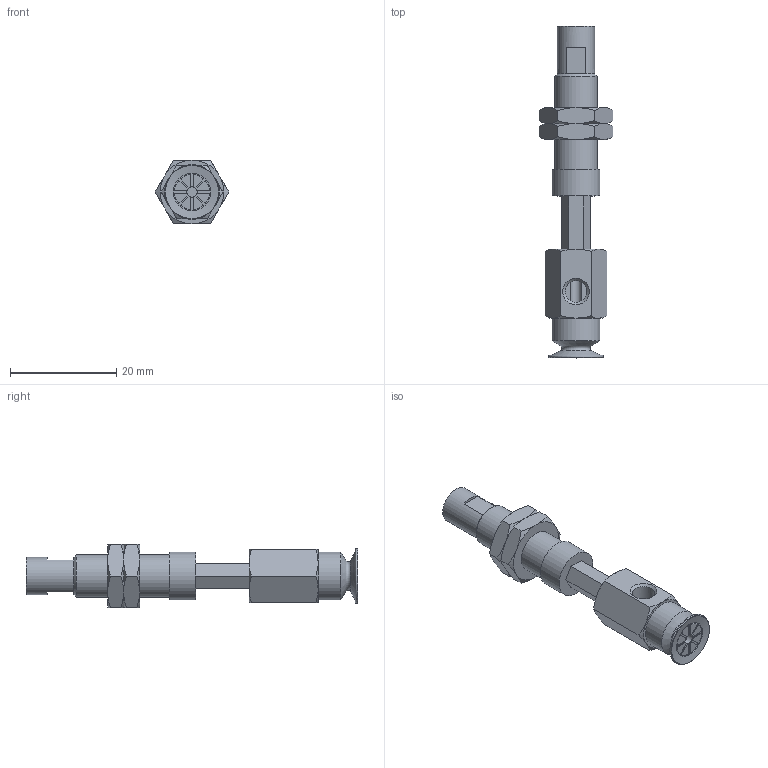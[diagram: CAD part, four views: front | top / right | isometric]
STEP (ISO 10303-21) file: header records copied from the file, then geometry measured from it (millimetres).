
FILE_DESCRIPTION(('STEP AP203'),'1');
FILE_NAME('.stp','2025-03-13T02:56:44',(' '),(' '),'Spatial InterOp 3D',' ',' ');
FILE_SCHEMA(('CONFIG_CONTROL_DESIGN'));
Length unit declared in the file: millimetre
Products named in the file (6): BNABPAYH-10B-10-※; NAPATH-10A-10--M; NAPATH-10A-10--F; Nut-10A-S; CONNECTOR-10A-10-PA; BPAG-10B-※
Assembly tree (6 placements, depth 2):
  BNABPAYH-10B-10-※
    NAPATH-10A-10--M
    NAPATH-10A-10--F
    Nut-10A-S  x2
    CONNECTOR-10A-10-PA
    BPAG-10B-※
Bounding box: 13.86 x 62.5 x 12 mm (x, y, z)
Volume: 3522.3 mm3; surface area: 4270.2 mm2
Topology: 6 solids, 6 shells, 173 faces, 400 edges, 248 vertices
Faces by surface type: plane 87, cone 51, cylinder 24, torus 11
Full cylindrical faces by diameter (mm): 2 x2, 4 x2, 4.134 x2, 5 x1, 6 x2, 7 x2, 7.188 x2, 8 x1, 9 x2
Entity records: 4562 total; most frequent: CARTESIAN_POINT 1023, DIRECTION 678, ORIENTED_EDGE 612, EDGE_CURVE 306, AXIS2_PLACEMENT_3D 269, VERTEX_POINT 212, EDGE_LOOP 206, FACE_OUTER_BOUND 176
